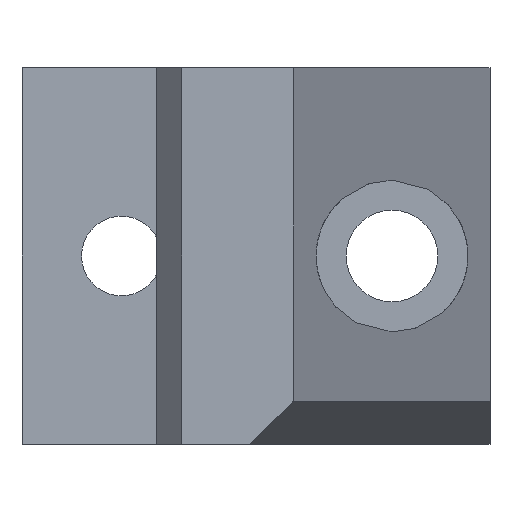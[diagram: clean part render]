
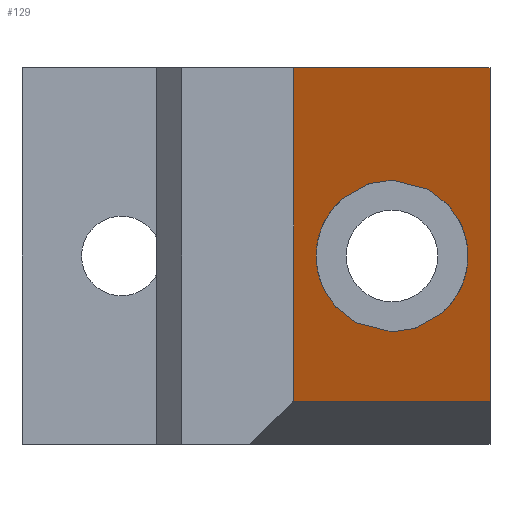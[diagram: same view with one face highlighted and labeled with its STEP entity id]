
A CAD part, front view. The second image highlights one B-rep face of the part: STEP entity #129.
In plain terms, the highlighted planar face has unit normal (0.967, -0.254, 0).
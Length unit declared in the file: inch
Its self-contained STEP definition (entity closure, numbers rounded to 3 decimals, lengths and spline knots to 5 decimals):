
#9 = DIRECTION ( 'NONE',  ( -0.967, 0.254, 0. ) ) ;
#29 = AXIS2_PLACEMENT_3D ( 'NONE', #545, #9, #151 ) ;
#61 = ORIENTED_EDGE ( 'NONE', *, *, #691, .T. ) ;
#129 = ADVANCED_FACE ( 'NONE', ( #579, #765 ), #888, .F. ) ;
#147 = CARTESIAN_POINT ( 'NONE',  ( -2.66152, -0.37704, 0.3925 ) ) ;
#151 = DIRECTION ( 'NONE',  ( -0.254, -0.967, 0. ) ) ;
#217 = VERTEX_POINT ( 'NONE', #147 ) ;
#251 = ORIENTED_EDGE ( 'NONE', *, *, #1061, .T. ) ;
#256 = VERTEX_POINT ( 'NONE', #421 ) ;
#272 = ORIENTED_EDGE ( 'NONE', *, *, #1064, .F. ) ;
#298 =( BOUNDED_CURVE ( )  B_SPLINE_CURVE ( 3, ( #781, #776, #775, #773 ),
 .UNSPECIFIED., .F., .T. ) 
 B_SPLINE_CURVE_WITH_KNOTS ( ( 4, 4 ),
 ( 4.71239, 7.85398 ),
 .UNSPECIFIED. ) 
 CURVE ( )  GEOMETRIC_REPRESENTATION_ITEM ( )  RATIONAL_B_SPLINE_CURVE ( ( 1., 0.333, 0.333, 1. ) ) 
 REPRESENTATION_ITEM ( '' )  );
#349 = LINE ( 'NONE', #853, #701 ) ;
#401 = VECTOR ( 'NONE', #702, 39.37008 ) ;
#421 = CARTESIAN_POINT ( 'NONE',  ( -2.31952, 0.92654, 0.15 ) ) ;
#444 = VECTOR ( 'NONE', #1021, 39.37008 ) ;
#447 = EDGE_CURVE ( 'NONE', #918, #508, #1017, .T. ) ;
#508 = VERTEX_POINT ( 'NONE', #875 ) ;
#513 = ORIENTED_EDGE ( 'NONE', *, *, #519, .T. ) ;
#517 = LINE ( 'NONE', #992, #401 ) ;
#519 = EDGE_CURVE ( 'NONE', #1041, #256, #349, .T. ) ;
#545 = CARTESIAN_POINT ( 'NONE',  ( -2.32126, 0.91994, 1.315 ) ) ;
#547 = CARTESIAN_POINT ( 'NONE',  ( -2.66152, -0.37704, 0.3925 ) ) ;
#570 = EDGE_LOOP ( 'NONE', ( #1033, #251 ) ) ;
#575 =( BOUNDED_CURVE ( )  B_SPLINE_CURVE ( 3, ( #547, #714, #1090, #806 ),
 .UNSPECIFIED., .F., .F. ) 
 B_SPLINE_CURVE_WITH_KNOTS ( ( 4, 4 ),
 ( 1.5708, 4.71239 ),
 .UNSPECIFIED. ) 
 CURVE ( )  GEOMETRIC_REPRESENTATION_ITEM ( )  RATIONAL_B_SPLINE_CURVE ( ( 1., 0.333, 0.333, 1. ) ) 
 REPRESENTATION_ITEM ( '' )  );
#579 = FACE_BOUND ( 'NONE', #570, .T. ) ;
#599 = EDGE_CURVE ( 'NONE', #688, #217, #298, .T. ) ;
#660 = EDGE_LOOP ( 'NONE', ( #61, #513, #272, #938 ) ) ;
#688 = VERTEX_POINT ( 'NONE', #1046 ) ;
#691 = EDGE_CURVE ( 'NONE', #918, #1041, #879, .T. ) ;
#701 = VECTOR ( 'NONE', #851, 39.37008 ) ;
#702 = DIRECTION ( 'NONE',  ( 0., 0., -1. ) ) ;
#714 = CARTESIAN_POINT ( 'NONE',  ( -3.19152, -2.39721, 0.3925 ) ) ;
#759 = CARTESIAN_POINT ( 'NONE',  ( -3.19252, -2.40102, 0.15 ) ) ;
#765 = FACE_OUTER_BOUND ( 'NONE', #660, .T. ) ;
#773 = CARTESIAN_POINT ( 'NONE',  ( -2.66152, -0.37704, 0.3925 ) ) ;
#775 = CARTESIAN_POINT ( 'NONE',  ( -2.13152, 1.64313, 0.3925 ) ) ;
#776 = CARTESIAN_POINT ( 'NONE',  ( -2.13152, 1.64313, 0.9225 ) ) ;
#781 = CARTESIAN_POINT ( 'NONE',  ( -2.66152, -0.37704, 0.9225 ) ) ;
#806 = CARTESIAN_POINT ( 'NONE',  ( -2.66152, -0.37704, 0.9225 ) ) ;
#851 = DIRECTION ( 'NONE',  ( 0.254, 0.967, 0. ) ) ;
#853 = CARTESIAN_POINT ( 'NONE',  ( -2.32126, 0.91994, 0.15 ) ) ;
#875 = CARTESIAN_POINT ( 'NONE',  ( -2.31952, 0.92654, 1.315 ) ) ;
#879 = LINE ( 'NONE', #1024, #444 ) ;
#888 = PLANE ( 'NONE',  #29 ) ;
#910 = VECTOR ( 'NONE', #951, 39.37008 ) ;
#918 = VERTEX_POINT ( 'NONE', #1140 ) ;
#938 = ORIENTED_EDGE ( 'NONE', *, *, #447, .F. ) ;
#951 = DIRECTION ( 'NONE',  ( 0.254, 0.967, 0. ) ) ;
#977 = CARTESIAN_POINT ( 'NONE',  ( -3.19252, -2.40102, 1.315 ) ) ;
#992 = CARTESIAN_POINT ( 'NONE',  ( -2.31952, 0.92654, 1.315 ) ) ;
#1017 = LINE ( 'NONE', #977, #910 ) ;
#1021 = DIRECTION ( 'NONE',  ( 0., 0., -1. ) ) ;
#1024 = CARTESIAN_POINT ( 'NONE',  ( -3.19252, -2.40102, 1.315 ) ) ;
#1033 = ORIENTED_EDGE ( 'NONE', *, *, #599, .T. ) ;
#1041 = VERTEX_POINT ( 'NONE', #759 ) ;
#1046 = CARTESIAN_POINT ( 'NONE',  ( -2.66152, -0.37704, 0.9225 ) ) ;
#1061 = EDGE_CURVE ( 'NONE', #217, #688, #575, .T. ) ;
#1064 = EDGE_CURVE ( 'NONE', #508, #256, #517, .T. ) ;
#1090 = CARTESIAN_POINT ( 'NONE',  ( -3.19152, -2.39721, 0.9225 ) ) ;
#1140 = CARTESIAN_POINT ( 'NONE',  ( -3.19252, -2.40102, 1.315 ) ) ;
